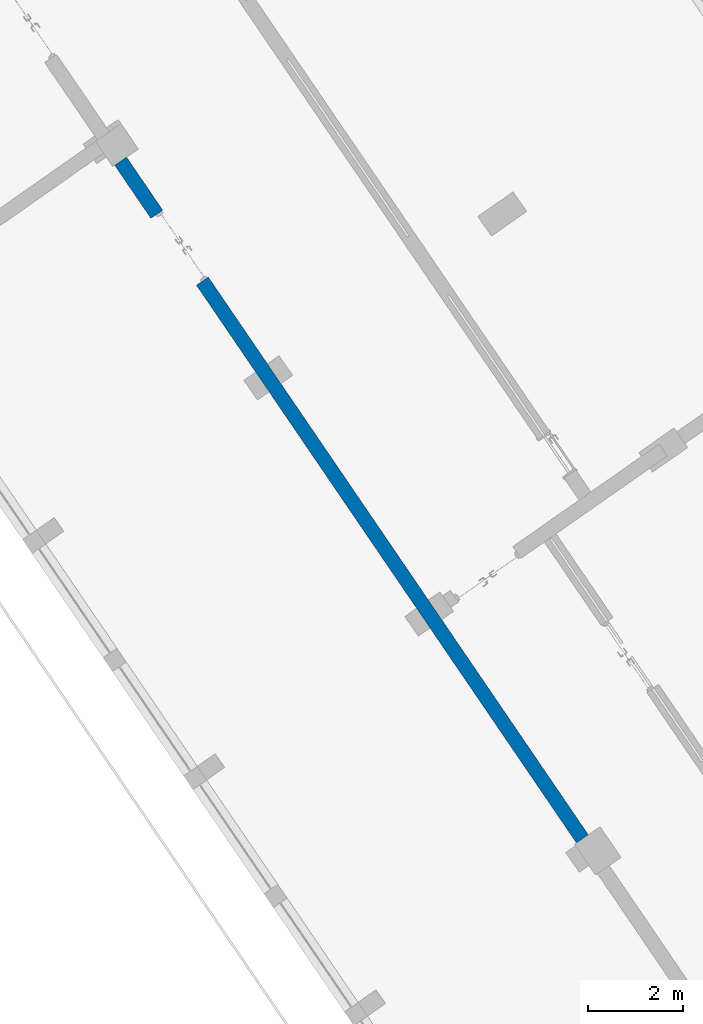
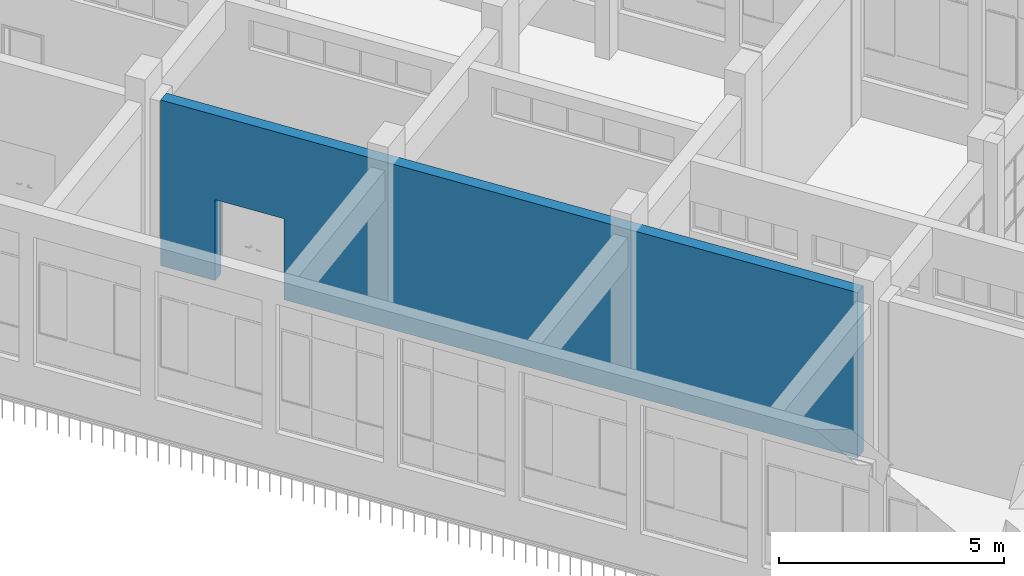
# One storey, part 82 of 157: 1 wall, 1 opening.
"""IFC2X3 building model written with IfcOpenShell, lengths in millimetres."""

from ifc_helpers import new_model, entity, si_unit, converted_unit, derived_unit, direction, frame, frame_2d, origin, place, context, subcontext, project, spatial, rectangle, extrude, material, layer, layer_set, layer_usage, type_object, element, save


model = new_model("IFC2X3")

# Units and contexts
model_context = context("Model", 3, precision=0.01, world=origin(), true_north=direction((6.123031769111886e-17, 1.0)))
body_context = subcontext(model_context, "Body", "Model", "MODEL_VIEW")
ifc_project = project(units=[si_unit("LENGTHUNIT", "METRE", prefix="MILLI"), si_unit("AREAUNIT", "SQUARE_METRE"), si_unit("VOLUMEUNIT", "CUBIC_METRE"), converted_unit("PLANEANGLEUNIT", "DEGREE", entity("IfcRatioMeasure", 0.017453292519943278), si_unit("PLANEANGLEUNIT", "RADIAN"), dimensions=[0, 0, 0, 0, 0, 0, 0]), si_unit("MASSUNIT", "GRAM", prefix="KILO"), derived_unit("MASSDENSITYUNIT", [(si_unit("MASSUNIT", "GRAM", prefix="KILO"), 1), (si_unit("LENGTHUNIT", "METRE"), -3)]), derived_unit("MOMENTOFINERTIAUNIT", [(si_unit("LENGTHUNIT", "METRE"), 4)]), si_unit("TIMEUNIT", "SECOND"), si_unit("FREQUENCYUNIT", "HERTZ"), si_unit("THERMODYNAMICTEMPERATUREUNIT", "DEGREE_CELSIUS"), derived_unit("THERMALTRANSMITTANCEUNIT", [(si_unit("MASSUNIT", "GRAM", prefix="KILO"), 1), (si_unit("THERMODYNAMICTEMPERATUREUNIT", "KELVIN"), -1), (si_unit("TIMEUNIT", "SECOND"), -3)]), derived_unit("THERMALCONDUCTANCEUNIT", [(si_unit("MASSUNIT", "GRAM", prefix="KILO"), 1), (si_unit("LENGTHUNIT", "METRE"), 1), (si_unit("THERMODYNAMICTEMPERATUREUNIT", "KELVIN"), -1), (si_unit("TIMEUNIT", "SECOND"), -3)]), derived_unit("VOLUMETRICFLOWRATEUNIT", [(si_unit("LENGTHUNIT", "METRE"), 3), (si_unit("TIMEUNIT", "SECOND"), -1)]), derived_unit("MASSFLOWRATEUNIT", [(si_unit("MASSUNIT", "GRAM", prefix="KILO"), 1), (si_unit("TIMEUNIT", "SECOND"), -1)]), derived_unit("ROTATIONALFREQUENCYUNIT", [(si_unit("TIMEUNIT", "SECOND"), -1)]), si_unit("ELECTRICCURRENTUNIT", "AMPERE"), si_unit("ELECTRICVOLTAGEUNIT", "VOLT"), si_unit("POWERUNIT", "WATT"), converted_unit("FORCEUNIT", "KIP", entity("IfcRatioMeasure", 2.088543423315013e-05), si_unit("FORCEUNIT", "NEWTON"), dimensions=[1, 1, -2, 0, 0, 0, 0]), si_unit("ILLUMINANCEUNIT", "LUX"), si_unit("LUMINOUSFLUXUNIT", "LUMEN"), si_unit("LUMINOUSINTENSITYUNIT", "CANDELA"), derived_unit("USERDEFINED", [(si_unit("MASSUNIT", "GRAM", prefix="KILO"), -1), (si_unit("LENGTHUNIT", "METRE"), -2), (si_unit("TIMEUNIT", "SECOND"), 3), (si_unit("LUMINOUSFLUXUNIT", "LUMEN"), 1)]), derived_unit("USERDEFINED", [(si_unit("MASSUNIT", "GRAM", prefix="KILO"), 1), (si_unit("LENGTHUNIT", "METRE"), 3), (si_unit("TIMEUNIT", "SECOND"), -3), (si_unit("ELECTRICCURRENTUNIT", "AMPERE"), -2)]), derived_unit("USERDEFINED", [(si_unit("LENGTHUNIT", "METRE"), 2), (si_unit("TIMEUNIT", "SECOND"), -2)]), derived_unit("SOUNDPOWERUNIT", [(si_unit("MASSUNIT", "GRAM", prefix="KILO"), 1), (si_unit("LENGTHUNIT", "METRE"), 2), (si_unit("TIMEUNIT", "SECOND"), -3)]), derived_unit("SOUNDPRESSUREUNIT", [(si_unit("MASSUNIT", "GRAM", prefix="KILO"), 1), (si_unit("LENGTHUNIT", "METRE"), -1), (si_unit("TIMEUNIT", "SECOND"), -2)]), derived_unit("LINEARVELOCITYUNIT", [(si_unit("LENGTHUNIT", "METRE"), 1), (si_unit("TIMEUNIT", "SECOND"), -1)]), si_unit("PRESSUREUNIT", "PASCAL"), derived_unit("USERDEFINED", [(si_unit("LENGTHUNIT", "METRE"), -2), (si_unit("MASSUNIT", "GRAM", prefix="KILO"), 1), (si_unit("TIMEUNIT", "SECOND"), -2)]), derived_unit("LINEARFORCEUNIT", [(si_unit("MASSUNIT", "GRAM", prefix="KILO"), 1), (si_unit("LENGTHUNIT", "METRE"), 1), (si_unit("TIMEUNIT", "SECOND"), -2), (si_unit("LENGTHUNIT", "METRE"), -1)]), derived_unit("PLANARFORCEUNIT", [(si_unit("MASSUNIT", "GRAM", prefix="KILO"), 1), (si_unit("LENGTHUNIT", "METRE"), 1), (si_unit("TIMEUNIT", "SECOND"), -2), (si_unit("LENGTHUNIT", "METRE"), -2)]), derived_unit("SPECIFICHEATCAPACITYUNIT", [(si_unit("LENGTHUNIT", "METRE"), 2), (si_unit("TIMEUNIT", "SECOND"), -2), (si_unit("THERMODYNAMICTEMPERATUREUNIT", "KELVIN"), -1)]), derived_unit("VAPORPERMEABILITYUNIT", [(si_unit("TIMEUNIT", "SECOND"), 1), (si_unit("LENGTHUNIT", "METRE"), -1)]), derived_unit("DYNAMICVISCOSITYUNIT", [(si_unit("MASSUNIT", "GRAM", prefix="KILO"), 1), (si_unit("LENGTHUNIT", "METRE"), -1), (si_unit("TIMEUNIT", "SECOND"), -1)]), derived_unit("THERMALEXPANSIONCOEFFICIENTUNIT", [(si_unit("THERMODYNAMICTEMPERATUREUNIT", "KELVIN"), -1)])], contexts=[model_context])

# Site, building, storey
site_placement = place(None, frame((0.0, 0.0, 0.0), z_axis=(0.0, 0.0, 1.0), x_axis=(0.8191520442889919, 0.5735764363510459, 0.0)))
site = spatial("IfcSite", under=ifc_project, at=site_placement, Name="Default", CompositionType="ELEMENT")
building_placement = place(site_placement, origin())
building = spatial("IfcBuilding", under=site, at=building_placement, CompositionType="ELEMENT")
storey_placement = place(building_placement, origin())
storey = spatial("IfcBuildingStorey", under=building, at=storey_placement, Name="1.EG +0.00", CompositionType="ELEMENT", Elevation=-4.331468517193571e-12)

# Wall, opening
ifc_material = material(Name="Analytical Wall Surface_CJC")
ifc_layer = layer(ifc_material, 300.0)
ifc_layer_set = layer_set([ifc_layer], Name="Basic Wall:Wand_Innen_30")
ifc_layer_usage = layer_usage(ifc_layer_set, "AXIS2", "NEGATIVE", 150.0)
wall_type = type_object("IfcWallType", Name="Basic Wall:Wand_Innen_30", PredefinedType="STANDARD", material=ifc_layer_set)
wall_placement = place(storey_placement, frame((-217381.0867941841, 79682.0309072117, 0.0), z_axis=(0.0, 0.0, 1.0), x_axis=(0.012736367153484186, 0.9999188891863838, 0.0)))
wall = element("IfcWallStandardCase", 1, at=wall_placement, inside=storey, type_object=wall_type, material=ifc_layer_usage, Name="Basic Wall:Wand_Innen_30", ObjectType="Basic Wall:Wand_Innen_30", context=body_context, shape_type="SweptSolid", body=[
    extrude(rectangle(XDim=17221.458716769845, YDim=300.0000000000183, at=frame_2d((8610.729358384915, 1.2363443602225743e-12), x_axis=(-1.0, 0.0))), origin(), (0.0, 0.0, 1.0), 4500.0),
])
opening_placement = place(wall_placement, frame((15871.458716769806, 150.0, 0.0)))
element("IfcOpeningElement", 2, at=opening_placement, cuts=wall, Name="M_Door-Passage-Double-Flush:160x210:1", ObjectType="Opening", context=body_context, shape_type="SweptSolid", body=[
    extrude(rectangle(XDim=2200.0, YDim=1699.9999999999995, at=frame_2d((1100.0, 849.9999999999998), x_axis=(1.0, 0.0))), frame((0.0, 0.0, 0.0), z_axis=(0.0, -1.0, 0.0), x_axis=(0.0, 0.0, 1.0)), (0.0, 0.0, 1.0), 300.0),
])

save(model, "model.ifc")
